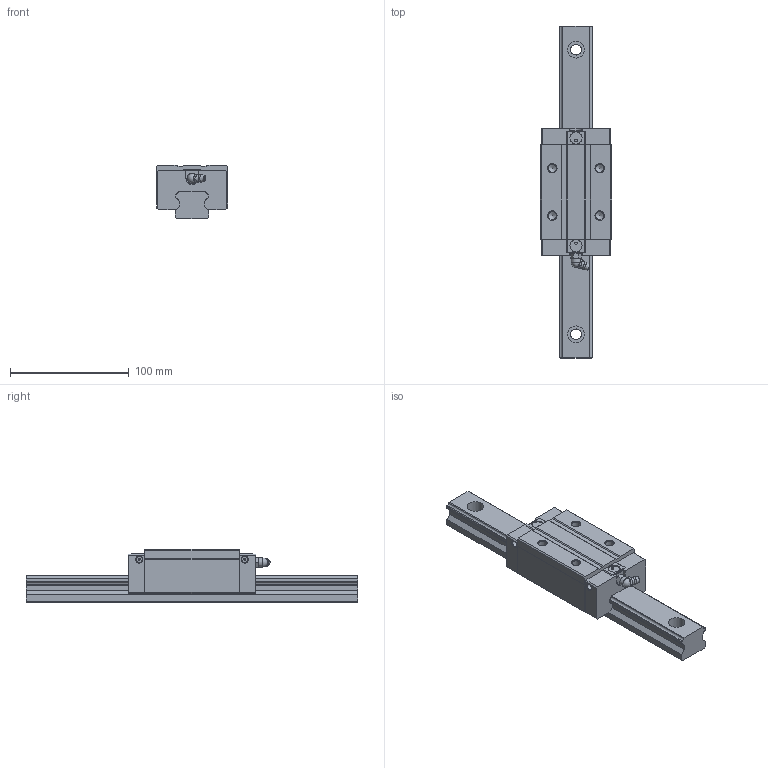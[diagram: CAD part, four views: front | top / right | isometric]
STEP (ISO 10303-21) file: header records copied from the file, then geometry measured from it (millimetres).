
FILE_DESCRIPTION(/* description */ (''),/* implementation_level */ '2;1');
FILE_NAME(/* name */ 'SME30-SA',/* time_stamp */ '2008-10-06T10:27:23+08:00',/* author */ (''),/* organization */ (''),/* preprocessor_version */ 'ST-DEVELOPER v11',/* originating_system */ 'UGS - NX 5.0',/* authorisation */ '');
FILE_SCHEMA (('AUTOMOTIVE_DESIGN { 1 0 10303 214 1 1 1 1 }'));
Length unit declared in the file: millimetre
Products named in the file (1): jillBD1Calln
Bounding box: 60 x 280 x 45 mm (x, y, z)
Volume: 342199.5 mm3; surface area: 63510.1 mm2
Topology: 3 solids, 3 shells, 187 faces, 491 edges, 326 vertices
Faces by surface type: plane 117, cylinder 47, cone 13, torus 7, sphere 2, bspline 1
Full cylindrical faces by diameter (mm): 1.5 x4, 2 x2, 5.2 x4, 6.8 x4, 8 x1, 9 x4, 10.2 x2, 14 x4
Entity records: 5859 total; most frequent: CARTESIAN_POINT 1164, DIRECTION 890, ORIENTED_EDGE 870, EDGE_CURVE 435, VERTEX_POINT 316, AXIS2_PLACEMENT_3D 306, LINE 278, VECTOR 278
